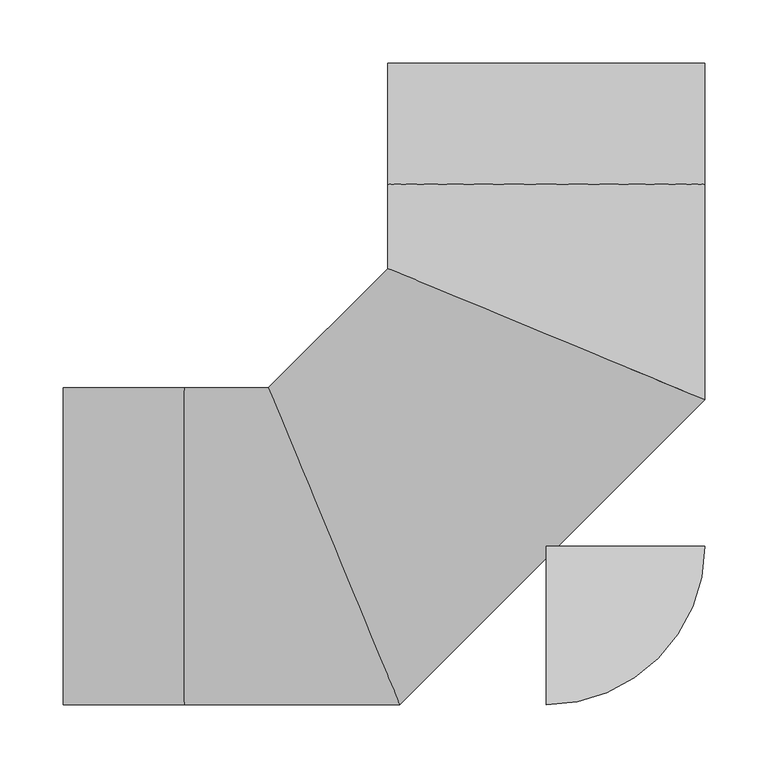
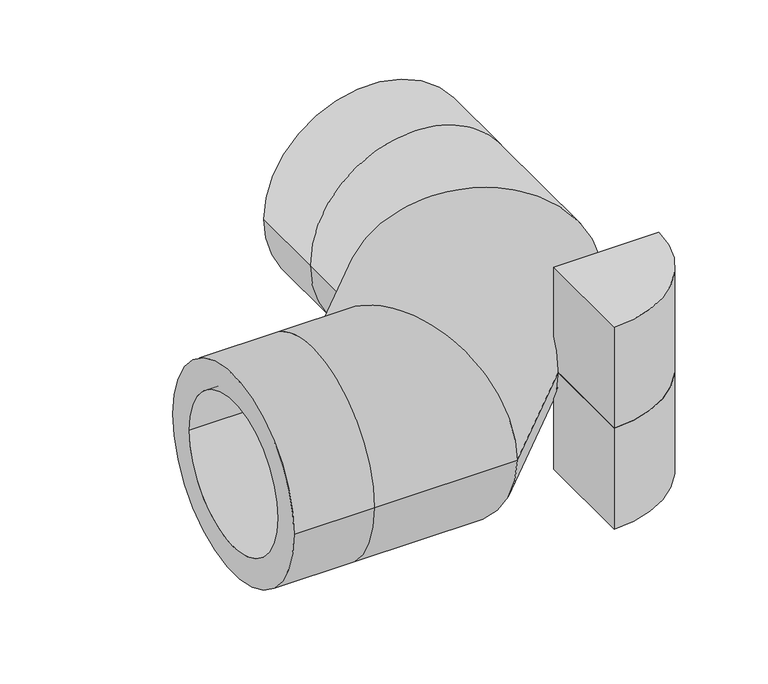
"""IFC4 building model written with IfcOpenShell, lengths in millimetres: pipe fitting geometry, Aquatherm - Elbow Green BW Segmented : SDR 7.4 FASER."""

from ifc_helpers import new_model, si_unit, point, frame, origin, origin_with_axes, origin_2d, place, context, project, spatial, polyline, circle_curve, ellipse_curve, trimmed, segment, composite_curve, outline, extrude, source, transform, mapped, element, save
from ifc_brep_helpers import plane_surface, cylinder_surface, revolved_surface, advanced_brep


def pipe_fitting_f3a41b24(model_context):
    return source(origin(), model_context, "Body", "SolidModel", [
        extrude(outline(composite_curve([segment(polyline([(0.0, -124.968), (0.0, 0.0), (124.968, 0.0)]), True, "CONTINUOUS"), segment(trimmed(circle_curve(origin_2d(), 124.968), [point((124.968, 0.0))], [point((0.0, -124.968))], False, "CARTESIAN"), True, "CONTINUOUS")], self_intersect=False)), frame((0.0, 0.0, -127.0), z_axis=(0.0, 0.0, 1.0), x_axis=(1.0, 0.0, 0.0)), (0.0, 0.0, 1.0), 127.0),
        extrude(outline(composite_curve([segment(trimmed(circle_curve(origin_2d(), 124.968), [point((124.968, 0.0))], [point((0.0, -124.968))], False, "CARTESIAN"), True, "CONTINUOUS"), segment(polyline([(0.0, -124.968), (0.0, 0.0), (124.968, 0.0)]), True, "CONTINUOUS")], self_intersect=False)), origin_with_axes(), (0.0, 0.0, 1.0), 127.0),
        advanced_brep(
        [(-381.0, -124.968, 0.0), (-381.0, 124.968, 0.0), (-381.0, -91.1857318, 0.0), (-381.0, 91.1857318, 0.0), (124.968, 381.0, 0.0), (-124.968, 381.0, 0.0), (91.1857318, 381.0, 0.0), (-91.1857318, 381.0, 0.0), (-285.75, -124.968, 0.0), (-285.75, 124.968, 0.0), (-285.75, -91.1857318, 0.0), (-285.75, 91.1857318, 0.0), (-115.6250341, -124.968, 0.0), (-219.151915, 124.968, 0.0), (-129.6181078, -91.1857318, 0.0), (-205.1588414, 91.1857318, 0.0), (124.968, 115.6250341, 0.0), (-124.968, 219.151915, 0.0), (91.1857318, 129.6181078, 0.0), (-91.1857318, 205.1588414, 0.0), (-124.968, 285.75, 0.0), (124.968, 285.75, 0.0), (-91.1857318, 285.75, 0.0), (91.1857318, 285.75, 0.0)],
        [
            (0, 1, circle_curve(frame((-381.0, 0.0, 0.0), z_axis=(-1.0, 0.0, 0.0), x_axis=(0.0, 1.0, 0.0)), 124.968)),
            (1, 0, circle_curve(frame((-381.0, 0.0, 0.0), z_axis=(-1.0, 0.0, 0.0), x_axis=(0.0, 1.0, 0.0)), 124.968)),
            (2, 3, circle_curve(frame((-381.0, 0.0, 0.0), z_axis=(1.0, 0.0, 0.0), x_axis=(0.0, 1.0, 0.0)), 91.1857318)),
            (3, 2, circle_curve(frame((-381.0, 0.0, 0.0), z_axis=(1.0, 0.0, 0.0), x_axis=(0.0, 1.0, 0.0)), 91.1857318)),
            (4, 5, circle_curve(frame((0.0, 381.0, 0.0), z_axis=(0.0, 1.0, 0.0), x_axis=(-1.0, 0.0, 0.0)), 124.968)),
            (5, 4, circle_curve(frame((0.0, 381.0, 0.0), z_axis=(0.0, 1.0, 0.0), x_axis=(-1.0, 0.0, 0.0)), 124.968)),
            (6, 7, circle_curve(frame((0.0, 381.0, 0.0), z_axis=(0.0, -1.0, 0.0), x_axis=(-1.0, 0.0, 0.0)), 91.1857318)),
            (7, 6, circle_curve(frame((0.0, 381.0, 0.0), z_axis=(0.0, -1.0, 0.0), x_axis=(-1.0, 0.0, 0.0)), 91.1857318)),
            (0, 8),
            (8, 9, circle_curve(frame((-285.75, 0.0, 0.0), z_axis=(-1.0, 0.0, 0.0), x_axis=(0.0, 1.0, 0.0)), 124.968)),
            (9, 1),
            (9, 8, circle_curve(frame((-285.75, 0.0, 0.0), z_axis=(-1.0, 0.0, 0.0), x_axis=(0.0, 1.0, 0.0)), 124.968)),
            (2, 10),
            (10, 11, circle_curve(frame((-285.75, 0.0, 0.0), z_axis=(1.0, 0.0, 0.0), x_axis=(0.0, 1.0, 0.0)), 91.1857318)),
            (11, 3),
            (11, 10, circle_curve(frame((-285.75, 0.0, 0.0), z_axis=(1.0, 0.0, 0.0), x_axis=(0.0, 1.0, 0.0)), 91.1857318)),
            (8, 12),
            (12, 13, ellipse_curve(frame((-167.3884746, 0.0, 0.0), z_axis=(-0.923879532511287, -0.3826834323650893, 0.0), x_axis=(-0.3826834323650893, 0.9238795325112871, 0.0)), 135.2643885, 124.968)),
            (13, 9),
            (13, 12, ellipse_curve(frame((-167.3884746, 0.0, 0.0), z_axis=(-0.923879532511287, -0.3826834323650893, 0.0), x_axis=(-0.3826834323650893, 0.9238795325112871, 0.0)), 135.2643885, 124.968)),
            (10, 14),
            (14, 15, ellipse_curve(frame((-167.3884746, 0.0, 0.0), z_axis=(0.923879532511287, 0.3826834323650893, 0.0), x_axis=(0.3826834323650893, -0.9238795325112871, 0.0)), 98.6987249, 91.1857318)),
            (15, 11),
            (15, 14, ellipse_curve(frame((-167.3884746, 0.0, 0.0), z_axis=(0.923879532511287, 0.3826834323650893, 0.0), x_axis=(0.3826834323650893, -0.9238795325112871, 0.0)), 98.6987249, 91.1857318)),
            (12, 16),
            (16, 17, ellipse_curve(frame((0.0, 167.3884746, 0.0), z_axis=(-0.3826834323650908, -0.9238795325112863, 0.0), x_axis=(-0.9238795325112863, 0.3826834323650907, 0.0)), 135.2643885, 124.968)),
            (17, 13),
            (17, 16, ellipse_curve(frame((0.0, 167.3884746, 0.0), z_axis=(-0.3826834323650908, -0.9238795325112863, 0.0), x_axis=(-0.9238795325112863, 0.3826834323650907, 0.0)), 135.2643885, 124.968)),
            (14, 18),
            (18, 19, ellipse_curve(frame((0.0, 167.3884746, 0.0), z_axis=(0.3826834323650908, 0.9238795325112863, 0.0), x_axis=(0.9238795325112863, -0.3826834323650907, 0.0)), 98.6987249, 91.1857318)),
            (19, 15),
            (19, 18, ellipse_curve(frame((0.0, 167.3884746, 0.0), z_axis=(0.3826834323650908, 0.9238795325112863, 0.0), x_axis=(0.9238795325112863, -0.3826834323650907, 0.0)), 98.6987249, 91.1857318)),
            (20, 21, circle_curve(frame((0.0, 285.75, 0.0), z_axis=(0.0, 1.0, 0.0), x_axis=(-1.0, 0.0, 0.0)), 124.968)),
            (21, 4),
            (5, 20),
            (21, 20, circle_curve(frame((0.0, 285.75, 0.0), z_axis=(0.0, 1.0, 0.0), x_axis=(-1.0, 0.0, 0.0)), 124.968)),
            (22, 23, circle_curve(frame((0.0, 285.75, 0.0), z_axis=(0.0, -1.0, 0.0), x_axis=(-1.0, 0.0, 0.0)), 91.1857318)),
            (23, 6),
            (7, 22),
            (23, 22, circle_curve(frame((0.0, 285.75, 0.0), z_axis=(0.0, -1.0, 0.0), x_axis=(-1.0, 0.0, 0.0)), 91.1857318)),
            (16, 21),
            (20, 17),
            (18, 23),
            (22, 19),
        ],
        [
            plane_surface(frame((-381.0, 0.0, 0.0), z_axis=(-1.0, 0.0, 0.0), x_axis=(0.0, 0.0, 1.0))),
            plane_surface(frame((0.0, 381.0, 0.0), z_axis=(0.0, 1.0, 0.0), x_axis=(0.0, 0.0, 1.0))),
            cylinder_surface(frame((-381.0, 0.0, 0.0), z_axis=(-1.0, 0.0, 0.0), x_axis=(0.0, 1.0, 0.0)), 124.968),
            revolved_surface(polyline([(-285.75, 91.1857318, 0.0), (-381.0, 91.1857318, 0.0)]), (-381.0, 0.0, 0.0), (1.0, 0.0, 0.0)),
            cylinder_surface(frame((-285.75, 0.0, 0.0), z_axis=(-1.0, 0.0, 0.0), x_axis=(0.0, 1.0, 0.0)), 124.968),
            revolved_surface(polyline([(-129.6181077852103, 91.1857318, 0.0), (-285.75, 91.1857318, 0.0)]), (-285.75, 0.0, 0.0), (1.0, 0.0, 0.0)),
            cylinder_surface(frame((-167.3884746, 0.0, 0.0), z_axis=(-0.7071067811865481, -0.707106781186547, 0.0), x_axis=(-0.707106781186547, 0.7071067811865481, 0.0)), 124.968),
            revolved_surface(polyline([(-37.770366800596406, 258.5742064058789, 0.0), (-258.57420640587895, 37.77036680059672, 0.0)]), (-167.3884746, 0.0, 0.0), (0.7071067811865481, 0.707106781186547, 0.0)),
            cylinder_surface(frame((0.0, 285.75, 0.0), z_axis=(0.0, -1.0, 0.0), x_axis=(-1.0, 0.0, 0.0)), 124.968),
            revolved_surface(polyline([(-91.1857318, 381.0, 0.0), (-91.1857318, 285.75, 0.0)]), (0.0, 285.75, 0.0), (0.0, 1.0, 0.0)),
            cylinder_surface(frame((0.0, 167.3884746, 0.0), z_axis=(0.0, -1.0, 0.0), x_axis=(-1.0, 0.0, 0.0)), 124.968),
            revolved_surface(polyline([(-91.1857318, 285.75, 0.0), (-91.1857318, 129.61810778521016, 0.0)]), (0.0, 167.3884746, 0.0), (0.0, 1.0, 0.0)),
        ],
        [
            (0, [[1, 2], [3, 4]]),
            (1, [[5, 6], [7, 8]]),
            (2, [[-1, 9, 10, 11]]),
            (2, [[-2, -11, 12, -9]]),
            (3, [[-3, 13, 14, 15]]),
            (3, [[-4, -15, 16, -13]]),
            (4, [[-10, 17, 18, 19]]),
            (4, [[-12, -19, 20, -17]]),
            (5, [[-14, 21, 22, 23]]),
            (5, [[-16, -23, 24, -21]]),
            (6, [[-18, 25, 26, 27]]),
            (6, [[-20, -27, 28, -25]]),
            (7, [[-22, 29, 30, 31]]),
            (7, [[-24, -31, 32, -29]]),
            (8, [[33, 34, -6, 35]]),
            (8, [[36, -35, -5, -34]]),
            (9, [[37, 38, -8, 39]]),
            (9, [[40, -39, -7, -38]]),
            (10, [[-26, 41, -33, 42]]),
            (10, [[-28, -42, -36, -41]]),
            (11, [[-30, 43, -37, 44]]),
            (11, [[-32, -44, -40, -43]]),
        ],
    ),
    ])


if __name__ == "__main__":
    model = new_model("IFC4")
    model_context = context("Model", 3, world=origin())
    ifc_project = project(units=[si_unit("LENGTHUNIT", "METRE", prefix="MILLI")], contexts=[model_context])
    site = spatial("IfcSite", under=ifc_project)
    building = spatial("IfcBuilding", under=site)
    placement = place(None, origin())
    pipe_fitting_shape = pipe_fitting_f3a41b24(model_context)
    element("IfcPipeFitting", 1, ObjectType="Aquatherm - Elbow Green BW Segmented : SDR 7.4 FASER", at=placement, inside=building, context=model_context, shape_type="MappedRepresentation", body=[
        mapped(pipe_fitting_shape, transform((0.0, 0.0, 0.0), x_axis=(1.0, 0.0, 0.0), y_axis=(0.0, 1.0, 0.0), z_axis=(0.0, 0.0, 1.0))),
    ])
    save(model, "model.ifc")
